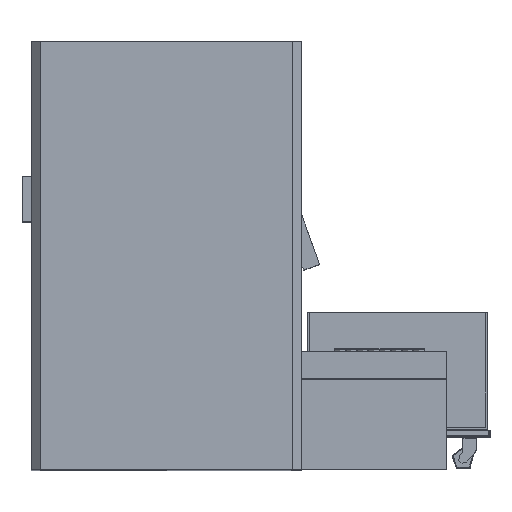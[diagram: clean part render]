
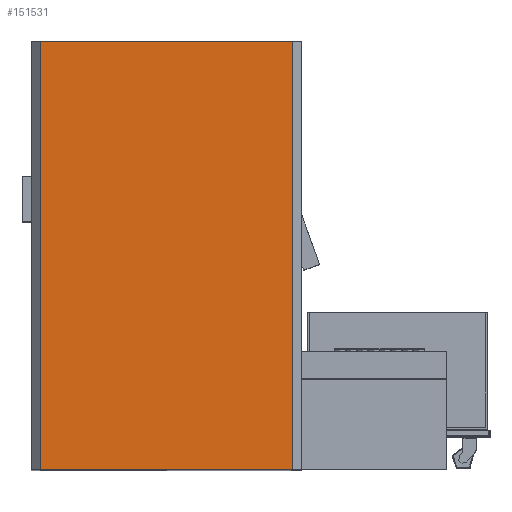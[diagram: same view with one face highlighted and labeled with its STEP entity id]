
A CAD part, top view. The second image highlights one B-rep face of the part: STEP entity #151531.
In plain terms, the highlighted planar face has unit normal (0, 0, 1) as drawn and (-1, 0, 0) by its records, which use the part's own axes.
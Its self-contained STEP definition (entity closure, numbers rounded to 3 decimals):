
#26512=FACE_OUTER_BOUND('',#36851,.T.);
#36851=EDGE_LOOP('',(#130593,#130594,#130595,#130596));
#48361=LINE('',#395089,#59719);
#48378=LINE('',#395122,#59736);
#48379=LINE('',#395125,#59737);
#48380=LINE('',#395126,#59738);
#59719=VECTOR('',#198611,10.);
#59736=VECTOR('',#198634,10.);
#59737=VECTOR('',#198637,10.);
#59738=VECTOR('',#198638,10.);
#72738=VERTEX_POINT('',#395086);
#72739=VERTEX_POINT('',#395088);
#72752=VERTEX_POINT('',#395120);
#72753=VERTEX_POINT('',#395124);
#92543=EDGE_CURVE('',#72739,#72738,#48361,.T.);
#92560=EDGE_CURVE('',#72739,#72752,#48378,.T.);
#92561=EDGE_CURVE('',#72753,#72738,#48379,.T.);
#92562=EDGE_CURVE('',#72752,#72753,#48380,.T.);
#130593=ORIENTED_EDGE('',*,*,#92560,.F.);
#130594=ORIENTED_EDGE('',*,*,#92543,.T.);
#130595=ORIENTED_EDGE('',*,*,#92561,.F.);
#130596=ORIENTED_EDGE('',*,*,#92562,.F.);
#143545=PLANE('',#165180);
#151531=ADVANCED_FACE('',(#26512),#143545,.T.);
#165180=AXIS2_PLACEMENT_3D('',#395123,#198635,#198636);
#198611=DIRECTION('',(0.,0.,1.));
#198634=DIRECTION('',(0.,1.,0.));
#198635=DIRECTION('center_axis',(-1.,0.,0.));
#198636=DIRECTION('ref_axis',(0.,0.,1.));
#198637=DIRECTION('',(0.,-1.,0.));
#198638=DIRECTION('',(0.,0.,1.));
#395086=CARTESIAN_POINT('',(-2800.,0.,-40.));
#395088=CARTESIAN_POINT('',(-2800.,0.,-1160.));
#395089=CARTESIAN_POINT('',(-2800.,0.,-1200.));
#395120=CARTESIAN_POINT('',(-2800.,1900.,-1160.));
#395122=CARTESIAN_POINT('',(-2800.,0.,-1160.));
#395123=CARTESIAN_POINT('Origin',(-2800.,0.,-1200.));
#395124=CARTESIAN_POINT('',(-2800.,1900.,-40.));
#395125=CARTESIAN_POINT('',(-2800.,0.,-40.));
#395126=CARTESIAN_POINT('',(-2800.,1900.,-1200.));
